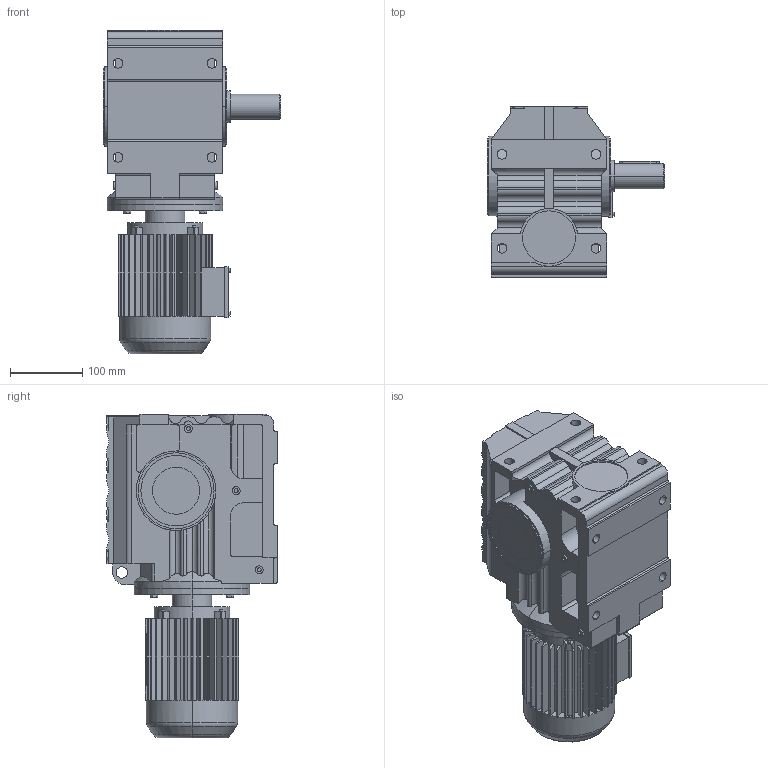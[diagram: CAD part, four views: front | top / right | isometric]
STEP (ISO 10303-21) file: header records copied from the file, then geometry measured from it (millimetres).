
FILE_DESCRIPTION(('Open CASCADE Model'),'2;1');
FILE_NAME('Open CASCADE Shape Model','2021-07-20T10:55:09',('Author'),( 'Open CASCADE'),'Open CASCADE STEP processor 6.3','Open CASCADE 6.3' ,'Unknown');
FILE_SCHEMA(('AUTOMOTIVE_DESIGN_CC2 { 1 2 10303 214 -1 1 5 4 }'));
Length unit declared in the file: millimetre
Products named in the file (4): 1_S67-Y63S-A; S47‵97_67.step; 萇儂_160_Y63S.step; す瑩妗陑粣S_67_S.step
Assembly tree (3 placements, depth 2):
  1_S67-Y63S-A
    S47‵97_67.step
    萇儂_160_Y63S.step
    す瑩妗陑粣S_67_S.step
Bounding box: 245.5 x 236 x 448 mm (x, y, z)
Volume: 9356332 mm3; surface area: 635480.1 mm2
Topology: 3 solids, 3 shells, 862 faces, 2318 edges, 1500 vertices
Faces by surface type: plane 557, cylinder 288, cone 13, torus 4
Entity records: 64777 total; most frequent: CARTESIAN_POINT 21350, DIRECTION 7353, ORIENTED_EDGE 4632, PCURVE 4632, DEFINITIONAL_REPRESENTATION 4632, LINE 3876, VECTOR 3876, EDGE_CURVE 2316
